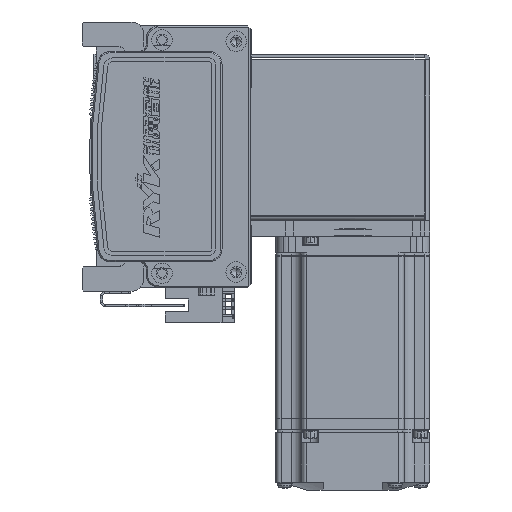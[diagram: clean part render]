
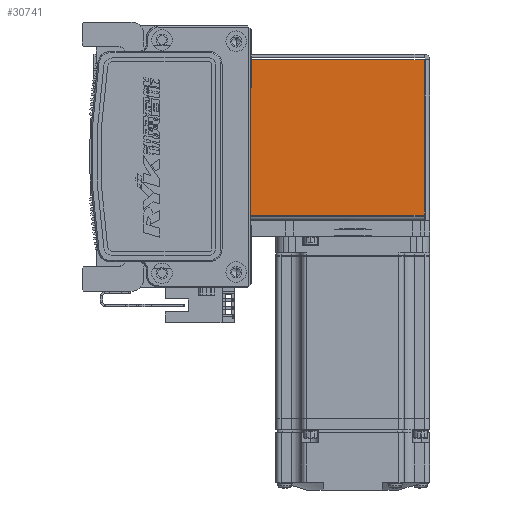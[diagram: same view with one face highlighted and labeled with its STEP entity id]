
A CAD part, left-side view. The second image highlights one B-rep face of the part: STEP entity #30741.
In plain terms, the highlighted planar face has unit normal (-1, 0, 0) as drawn and (0, 0, -1) by its records, which use the part's own axes.
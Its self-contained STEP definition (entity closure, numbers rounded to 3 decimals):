
#2071 = CARTESIAN_POINT ( 'NONE',  ( -30.293, 72.5, -35. ) ) ;
#2386 = EDGE_CURVE ( 'NONE', #6571, #62204, #63454, .T. ) ;
#2740 = DIRECTION ( 'NONE',  ( 0., -1., 0. ) ) ;
#3183 = DIRECTION ( 'NONE',  ( 1., 0., 0. ) ) ;
#5526 = EDGE_CURVE ( 'NONE', #62204, #17599, #60640, .T. ) ;
#6571 = VERTEX_POINT ( 'NONE', #2071 ) ;
#10728 = DIRECTION ( 'NONE',  ( 1., 0., 0. ) ) ;
#10973 = CARTESIAN_POINT ( 'NONE',  ( 32.5, 0.737, -35. ) ) ;
#11951 = VECTOR ( 'NONE', #53199, 1000. ) ;
#15070 = ORIENTED_EDGE ( 'NONE', *, *, #39287, .T. ) ;
#17599 = VERTEX_POINT ( 'NONE', #42536 ) ;
#20809 = VECTOR ( 'NONE', #41869, 1000. ) ;
#22563 = LINE ( 'NONE', #36836, #20809 ) ;
#24806 = ORIENTED_EDGE ( 'NONE', *, *, #2386, .T. ) ;
#26001 = CARTESIAN_POINT ( 'NONE',  ( 0., 72.5, -35. ) ) ;
#26432 = EDGE_LOOP ( 'NONE', ( #33173, #67927, #15070, #24806 ) ) ;
#30741 = ADVANCED_FACE ( 'NONE', ( #49507 ), #48099, .F. ) ;
#32408 = VERTEX_POINT ( 'NONE', #41848 ) ;
#33173 = ORIENTED_EDGE ( 'NONE', *, *, #5526, .T. ) ;
#35752 = CARTESIAN_POINT ( 'NONE',  ( 30.263, 72.5, -35. ) ) ;
#36836 = CARTESIAN_POINT ( 'NONE',  ( -30.293, 0., -35. ) ) ;
#39287 = EDGE_CURVE ( 'NONE', #32408, #6571, #22563, .T. ) ;
#41848 = CARTESIAN_POINT ( 'NONE',  ( -30.293, 0.737, -35. ) ) ;
#41869 = DIRECTION ( 'NONE',  ( 0., 1., 0. ) ) ;
#42536 = CARTESIAN_POINT ( 'NONE',  ( 30.263, 0.737, -35. ) ) ;
#47047 = LINE ( 'NONE', #10973, #55803 ) ;
#48099 = PLANE ( 'NONE',  #65053 ) ;
#49507 = FACE_OUTER_BOUND ( 'NONE', #26432, .T. ) ;
#52978 = DIRECTION ( 'NONE',  ( 0., 0., 1. ) ) ;
#53199 = DIRECTION ( 'NONE',  ( 0., -1., 0. ) ) ;
#55710 = VECTOR ( 'NONE', #3183, 1000. ) ;
#55803 = VECTOR ( 'NONE', #10728, 1000. ) ;
#56002 = EDGE_CURVE ( 'NONE', #32408, #17599, #47047, .T. ) ;
#60640 = LINE ( 'NONE', #70714, #11951 ) ;
#62204 = VERTEX_POINT ( 'NONE', #35752 ) ;
#63454 = LINE ( 'NONE', #26001, #55710 ) ;
#65053 = AXIS2_PLACEMENT_3D ( 'NONE', #69985, #52978, #2740 ) ;
#67927 = ORIENTED_EDGE ( 'NONE', *, *, #56002, .F. ) ;
#69985 = CARTESIAN_POINT ( 'NONE',  ( 0., 0., -35. ) ) ;
#70714 = CARTESIAN_POINT ( 'NONE',  ( 30.263, 72.5, -35. ) ) ;
